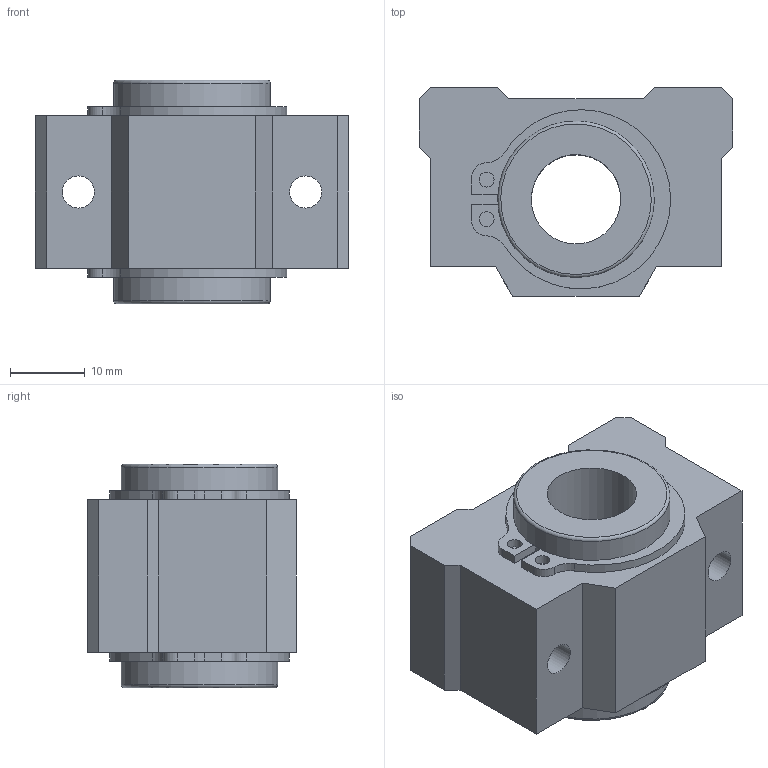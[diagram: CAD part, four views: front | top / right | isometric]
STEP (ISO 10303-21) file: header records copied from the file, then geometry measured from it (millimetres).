
FILE_DESCRIPTION(('STEP AP203'),'1');
FILE_NAME('//192.168.1.1/share/s-4 技術開発/s-4-4_CAD/s-4-4-3_見直し済み/008 修正済み/LC-C/LC-C_TOP/LC-12VCUU.step','2022-05-19T01:28:12',(' '),(' '),'Spatial InterOp 3D',' ',' ');
FILE_SCHEMA(('CONFIG_CONTROL_DESIGN'));
Length unit declared in the file: millimetre
Products named in the file (4): 1; 2; 3; 4
Bounding box: 42 x 28 x 30 mm (x, y, z)
Volume: 20153.3 mm3; surface area: 10710.2 mm2
Topology: 4 solids, 4 shells, 67 faces, 166 edges, 111 vertices
Faces by surface type: plane 38, cylinder 27, torus 2
Full cylindrical faces by diameter (mm): 2 x4, 4.3 x4, 12 x1, 20 x2, 21 x4
Entity records: 2080 total; most frequent: DIRECTION 340, CARTESIAN_POINT 321, ORIENTED_EDGE 288, EDGE_CURVE 144, AXIS2_PLACEMENT_3D 125, VERTEX_POINT 106, EDGE_LOOP 104, LINE 90
